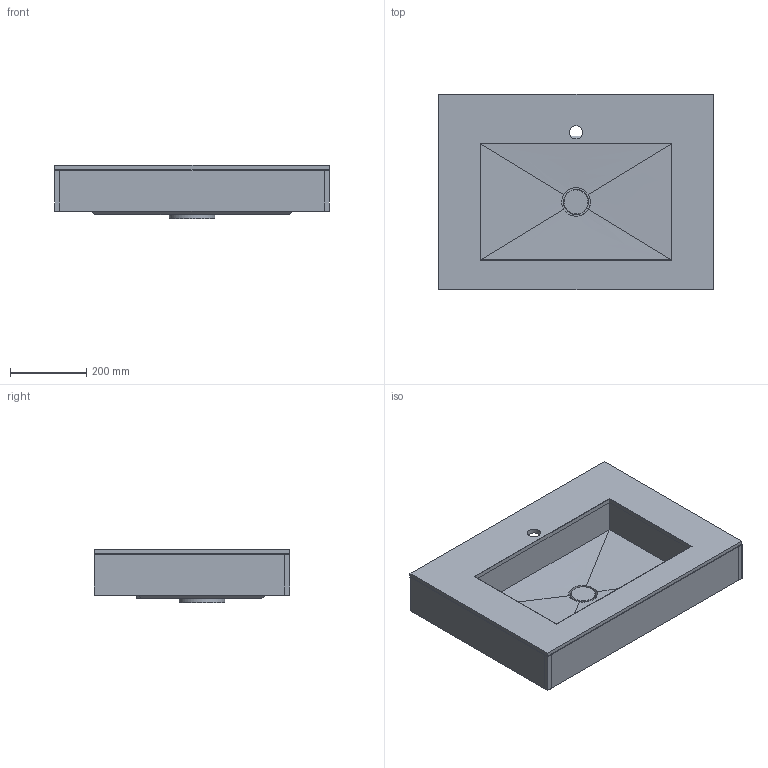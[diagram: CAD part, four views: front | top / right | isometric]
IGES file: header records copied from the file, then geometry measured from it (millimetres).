
Start section: Data from Parasolid IGES Translator 22.0.50, Copyright(c) 2006 Siemens P LM Software. All Rights Reserved.
Global section: file name: noorth-top-H 1,9 D 51,2 W 72_4370.igs; native system: By Siemens PLM Incorporated; preprocessor: XPlus GENERIC/IGES 22.0.50; author: Noname; organization: Noname; date: 20251109.132119; units: metre
Bounding box: 720 x 512 x 139.29 mm (x, y, z)
Volume: 13138656.8 mm3; surface area: 1877100.1 mm2
Topology: 12 solids, 12 shells, 115 faces, 270 edges, 183 vertices
Faces by surface type: plane 97, cylinder 9, cone 5, bspline 4
Full cylindrical faces by diameter (mm): 34 x2, 34.697 x1, 45 x2, 65 x2, 75 x1, 120 x1
